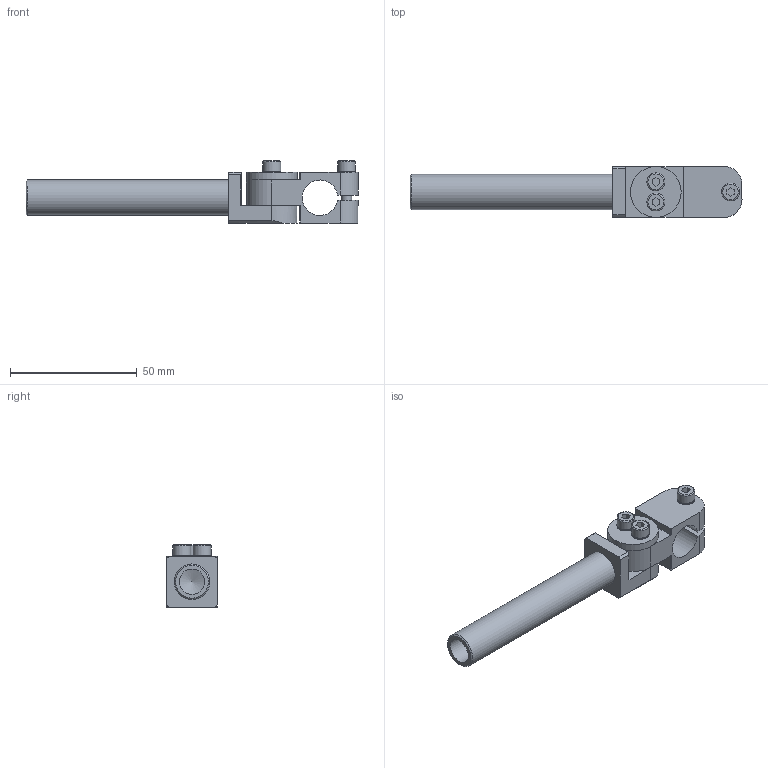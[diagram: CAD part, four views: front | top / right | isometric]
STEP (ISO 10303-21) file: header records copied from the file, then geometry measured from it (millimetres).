
FILE_DESCRIPTION(('STEP AP214'),'1');
FILE_NAME('CA.GVR.1414.80.stp','2020-09-21T09:52:02',(' '),(' '),'Spatial InterOp 3D',' ',' ');
FILE_SCHEMA(('AUTOMOTIVE_DESIGN { 1 0 10303 214 1 1 1 1 }'));
Length unit declared in the file: millimetre
Products named in the file (6): CA.GVR.1414.80; V.TCE4X20; R.4.SCH; GVR.14.3; GVR.14.2; GVR.14.1.80
Assembly tree (9 placements, depth 2):
  CA.GVR.1414.80
    V.TCE4X20  x3
    R.4.SCH  x3
    GVR.14.3
    GVR.14.2
    GVR.14.1.80
Bounding box: 131 x 20 x 24.5 mm (x, y, z)
Volume: 22276.5 mm3; surface area: 15482.7 mm2
Topology: 9 solids, 9 shells, 688 faces, 1986 edges, 1318 vertices
Faces by surface type: plane 638, cylinder 39, torus 6, cone 5
Full cylindrical faces by diameter (mm): 3.3 x3, 4 x3, 4.2 x3, 4.3 x3, 7 x6, 10 x1, 13.9 x1, 14 x1, 14.1 x1, 20 x1
Entity records: 11277 total; most frequent: DIRECTION 1556, CARTESIAN_POINT 1541, ORIENTED_EDGE 1484, EDGE_CURVE 742, AXIS2_PLACEMENT_3D 536, VERTEX_POINT 505, LINE 484, VECTOR 484
